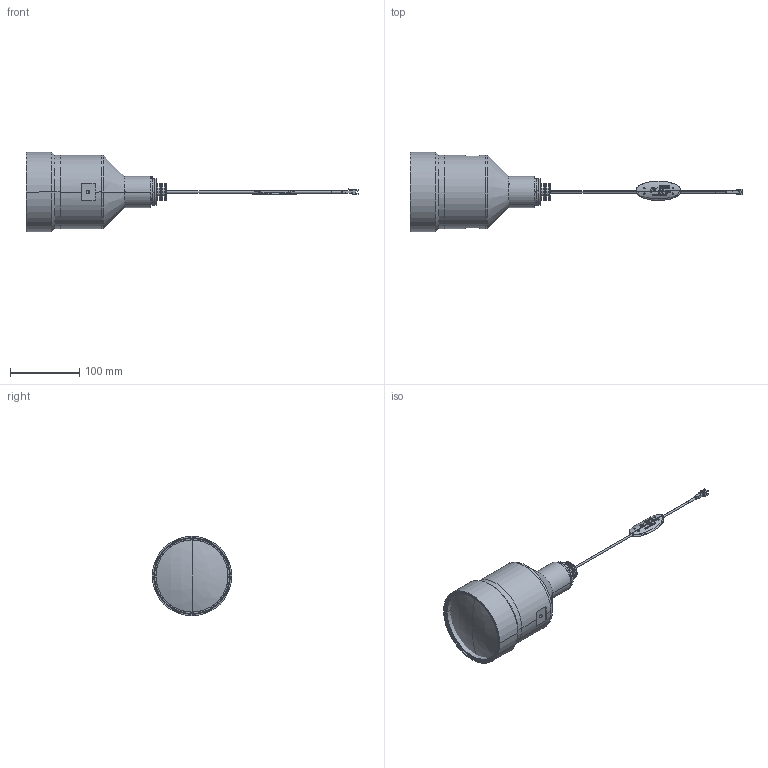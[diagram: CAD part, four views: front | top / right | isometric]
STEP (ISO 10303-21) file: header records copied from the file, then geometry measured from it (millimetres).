
FILE_DESCRIPTION(('STEP AP214'),'1');
FILE_NAME('VCL-100-2P_DRAWING_3D.step','2024-03-04T02:56:40',(' '),(' '),'Spatial InterOp 3D',' ',' ');
FILE_SCHEMA(('AUTOMOTIVE_DESIGN { 1 0 10303 214 1 1 1 1 }'));
Length unit declared in the file: millimetre
Products named in the file (20): Cable Holder_1; LED HOLDER_1; REAR FRAME; MIDDLE FRAME; FIXING FRAME; FRONT FRAME; l02; l03; SPACER; L04; L4 LENS HOLDER; L1 LENS FRAME; l01; L1 LENS HOLDER; O-Ring_1; MXB0164_4; hexagon socket set screw cone point_jis_JIS B 1177 Cone point M2.5 x 3 --S_1; CABEL TAG (VS); CABLE 2P
Assembly tree (22 placements, depth 2):
  (unnamed)
    Cable Holder_1
    LED HOLDER_1
    REAR FRAME
    MIDDLE FRAME
    FIXING FRAME
    FRONT FRAME
    l02
    l03
    SPACER
    L04
    L4 LENS HOLDER
    L1 LENS FRAME
    l01
    L1 LENS HOLDER
    O-Ring_1
    MXB0164_4  x2
    hexagon socket set screw cone point_jis_JIS B 1177 Cone point M2.5 x 3 --S_1  x3
    CABEL TAG (VS)
    CABLE 2P
Bounding box: 479.97 x 115 x 115 mm (x, y, z)
Volume: 544832 mm3; surface area: 244477 mm2
Topology: 46 solids, 47 shells, 1159 faces, 3076 edges, 2083 vertices
Faces by surface type: cylinder 580, plane 284, cone 180, bspline 80, torus 19, sphere 16
Entity records: 58708 total; most frequent: CARTESIAN_POINT 26037, ORIENTED_EDGE 5530, DIRECTION 4534, EDGE_CURVE 2765, VERTEX_POINT 1899, AXIS2_PLACEMENT_3D 1705, EDGE_LOOP 1182, LINE 1124
